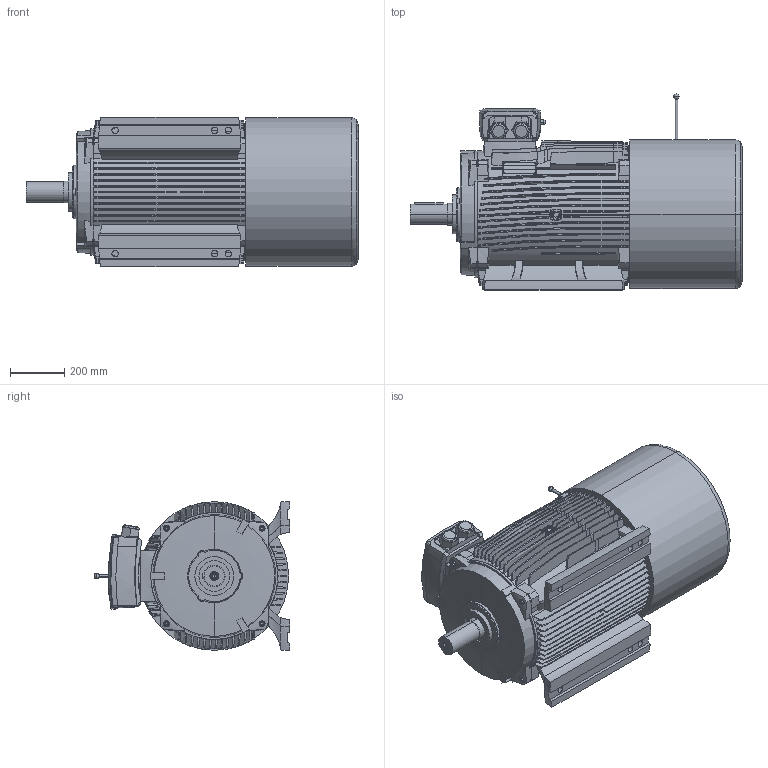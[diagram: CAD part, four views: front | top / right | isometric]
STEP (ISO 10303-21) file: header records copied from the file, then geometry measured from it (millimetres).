
FILE_DESCRIPTION((''),'2;1');
FILE_NAME('280M_ASM','2016-07-22T',('user'),(''),'PRO/ENGINEER BY PARAMETRIC TECHNOLOGY CORPORATION, 2010020','PRO/ENGINEER BY PARAMETRIC TECHNOLOGY CORPORATION, 2010020','');
FILE_SCHEMA(('CONFIG_CONTROL_DESIGN'));
Length unit declared in the file: millimetre
Products named in the file (6): FRA280MCB3; B3280; TBOX280; FCVATDC280; SH280M_4-8P; 280M_ASM
Assembly tree (5 placements, depth 2):
  280M_ASM
    FRA280MCB3
    B3280
    TBOX280
    FCVATDC280
    SH280M_4-8P
Bounding box: 1229 x 725.09 x 555 mm (x, y, z)
Volume: 228142202 mm3; surface area: 5593158.9 mm2
Topology: 5 solids, 19 shells, 2229 faces, 6070 edges, 3985 vertices
Faces by surface type: plane 1001, cylinder 633, torus 258, cone 168, bspline 99, extrusion 68, sphere 2
Entity records: 79644 total; most frequent: CARTESIAN_POINT 27242, ORIENTED_EDGE 12064, DIRECTION 9113, EDGE_CURVE 6032, VERTEX_POINT 3985, AXIS2_PLACEMENT_3D 3419, B_SPLINE_CURVE_WITH_KNOTS 2547, EDGE_LOOP 2417
